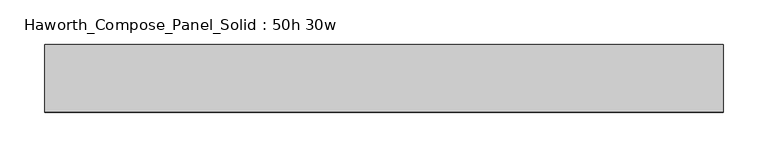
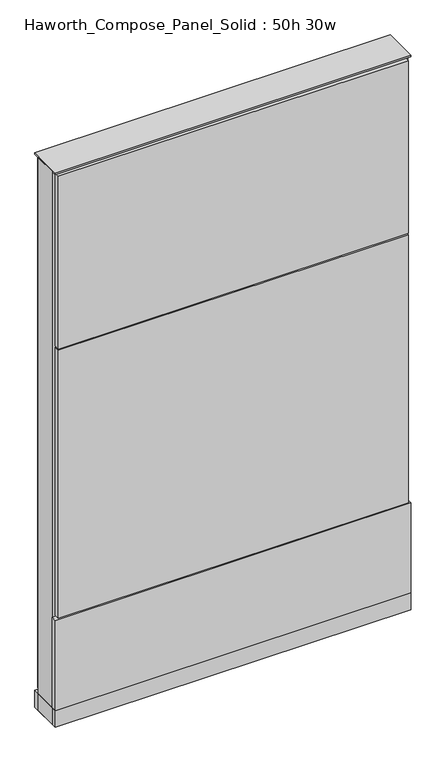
"""IFC4 building model written with IfcOpenShell, lengths in millimetres: furniture geometry, Haworth_Compose_Panel_Solid : 50h 30w."""

from ifc_helpers import new_model, si_unit, point, frame, frame_2d, origin, origin_with_axes, place, context, project, spatial, polyline, circle_curve, trimmed, segment, composite_curve, outline, extrude, source, transform, mapped, element, save


def haworth_compose_panel_solid_50h_30w_896d349b(model_context):
    return source(origin(), model_context, "Body", "SweptSolid", [
        extrude(outline(composite_curve([segment(trimmed(circle_curve(frame_2d((-302.3597098, 0.0)), 12.7), [point((-315.0597098, 0.0))], [point((-289.6597098, 0.0))], False, "CARTESIAN"), True, "CONTINUOUS"), segment(trimmed(circle_curve(frame_2d((-302.3597098, 0.0)), 12.7), [point((-289.6597098, 0.0))], [point((-315.0597098, 0.0))], False, "CARTESIAN"), True, "CONTINUOUS")], self_intersect=False)), origin_with_axes(), (0.0, 0.0, 1.0), 12.7),
        extrude(outline(composite_curve([segment(trimmed(circle_curve(frame_2d((307.2402902, 0.0)), 12.7), [point((294.5402902, 0.0))], [point((319.9402902, 0.0))], False, "CARTESIAN"), True, "CONTINUOUS"), segment(trimmed(circle_curve(frame_2d((307.2402902, 0.0)), 12.7), [point((319.9402902, 0.0))], [point((294.5402902, 0.0))], False, "CARTESIAN"), True, "CONTINUOUS")], self_intersect=False)), origin_with_axes(), (0.0, 0.0, 1.0), 12.7),
        extrude(outline(polyline([(377.0902902, -38.1), (-372.2097098, -38.1), (-372.2097098, -25.4), (377.0902902, -25.4), (377.0902902, -38.1)])), frame((0.0, 0.0, 866.775), z_axis=(0.0, 0.0, 1.0), x_axis=(1.0, 0.0, 0.0)), (0.0, 0.0, 1.0), 390.525),
        extrude(outline(polyline([(377.0902902, -38.1), (-372.2097098, -38.1), (-372.2097098, -25.4), (377.0902902, -25.4), (377.0902902, -38.1)])), frame((0.0, 0.0, 257.175), z_axis=(0.0, 0.0, 1.0), x_axis=(1.0, 0.0, 0.0)), (0.0, 0.0, 1.0), 606.425),
        extrude(outline(polyline([(383.4402902, -38.1), (-378.5597098, -38.1), (-378.5597098, -25.4), (383.4402902, -25.4), (383.4402902, -38.1)])), frame((0.0, 0.0, 50.8), z_axis=(0.0, 0.0, 1.0), x_axis=(1.0, 0.0, 0.0)), (0.0, 0.0, 1.0), 203.2),
        extrude(outline(polyline([(377.0902902, 38.1), (377.0902902, 25.4), (-372.2097098, 25.4), (-372.2097098, 38.1), (377.0902902, 38.1)])), frame((0.0, 0.0, 53.975), z_axis=(0.0, 0.0, 1.0), x_axis=(1.0, 0.0, 0.0)), (0.0, 0.0, 1.0), 1203.325),
        extrude(outline(polyline([(383.4402902, -25.4), (-378.5597098, -25.4), (-378.5597098, 25.4), (383.4402902, 25.4), (383.4402902, -25.4)])), frame((0.0, 0.0, 12.7), z_axis=(0.0, 0.0, 1.0), x_axis=(1.0, 0.0, 0.0)), (0.0, 0.0, 1.0), 1250.95),
        extrude(outline(polyline([(-378.5597098, 38.1), (383.4402902, 38.1), (383.4402902, -38.1), (-378.5597098, -38.1), (-378.5597098, 38.1)])), frame((0.0, 0.0, 12.7), z_axis=(0.0, 0.0, 1.0), x_axis=(1.0, 0.0, 0.0)), (0.0, 0.0, 1.0), 38.1),
        extrude(outline(polyline([(-378.5597098, 38.1), (383.4402902, 38.1), (383.4402902, -38.1), (-378.5597098, -38.1), (-378.5597098, 38.1)])), frame((0.0, 0.0, 1263.65), z_axis=(0.0, 0.0, 1.0), x_axis=(1.0, 0.0, 0.0)), (0.0, 0.0, 1.0), 3.175),
    ])


if __name__ == "__main__":
    model = new_model("IFC4")
    model_context = context("Model", 3, world=origin())
    ifc_project = project(units=[si_unit("LENGTHUNIT", "METRE", prefix="MILLI")], contexts=[model_context])
    site = spatial("IfcSite", under=ifc_project)
    building = spatial("IfcBuilding", under=site)
    placement = place(None, origin())
    haworth_compose_panel_solid_50h_30w_shape = haworth_compose_panel_solid_50h_30w_896d349b(model_context)
    element("IfcFurniture", 1, ObjectType="Haworth_Compose_Panel_Solid : 50h 30w", at=placement, inside=building, context=model_context, shape_type="MappedRepresentation", body=[
        mapped(haworth_compose_panel_solid_50h_30w_shape, transform((0.0, 0.0, 0.0), x_axis=(1.0, 0.0, 0.0), y_axis=(0.0, 1.0, 0.0), z_axis=(0.0, 0.0, 1.0))),
    ])
    save(model, "model.ifc")
